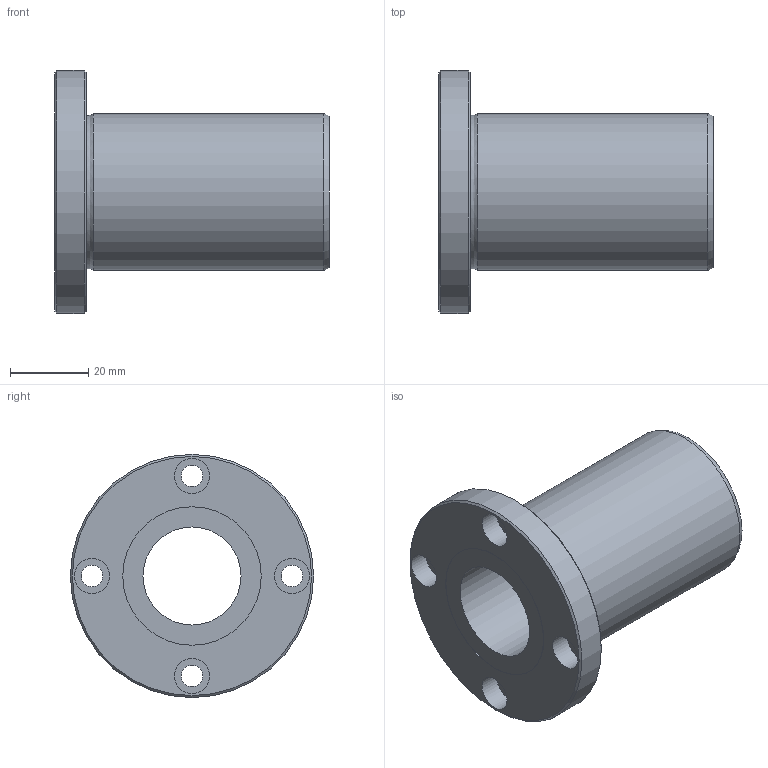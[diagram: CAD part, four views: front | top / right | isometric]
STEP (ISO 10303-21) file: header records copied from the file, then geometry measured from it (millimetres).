
FILE_DESCRIPTION((''),'2;1');
FILE_NAME('D:\製品 (図面)\カタログ用3D\メンテナンスフリー関連\STEP形式\LF-MF\LF25MF.stp','2010-06-01T16:05:26',('Tsuchiya'),(''),'Autodesk Inventor 10','Autodesk Inventor 10','');
FILE_SCHEMA(('AUTOMOTIVE_DESIGN { 1 0 10303 214 1 1 1 1 }'));
Length unit declared in the file: millimetre
Products named in the file (1): LF25MF
Bounding box: 70 x 62 x 62 mm (x, y, z)
Volume: 65806.8 mm3; surface area: 20384.8 mm2
Topology: 1 solids, 1 shells, 26 faces, 47 edges, 30 vertices
Faces by surface type: cylinder 13, plane 9, cone 2, torus 1, bspline 1
Full cylindrical faces by diameter (mm): 5.5 x4, 9 x4, 25 x1, 35.3 x2, 40 x1, 62 x1
Entity records: 665 total; most frequent: CARTESIAN_POINT 149, DIRECTION 112, ORIENTED_EDGE 60, EDGE_LOOP 60, AXIS2_PLACEMENT_3D 56, FACE_BOUND 34, VERTEX_POINT 30, CIRCLE 30
